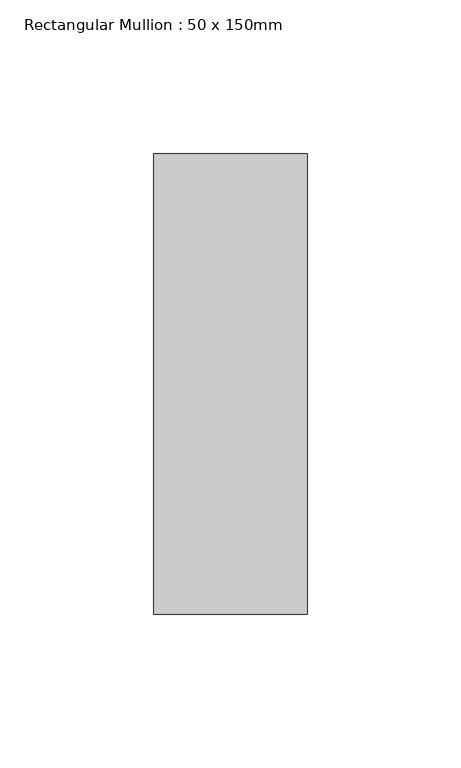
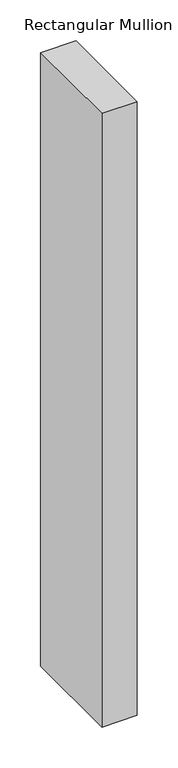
"""IFC4 building model written with IfcOpenShell, lengths in millimetres: member geometry, Rectangular Mullion : 50 x 150mm."""

from ifc_helpers import new_model, si_unit, frame, origin, place, context, project, spatial, polyline, outline, extrude, source, transform, mapped, element, save


def rectangular_mullion_50_x_150mm_fdea0e76(model_context):
    return source(origin(), model_context, "Body", "SweptSolid", [
        extrude(outline(polyline([(25.0, 75.0), (25.0, -75.0), (-25.0, -75.0), (-25.0, 75.0), (25.0, 75.0)])), frame((0.0, 0.0, -918.3333334), z_axis=(0.0, 0.0, 1.0), x_axis=(1.0, 0.0, 0.0)), (0.0, 0.0, 1.0), 918.3333334),
    ])


if __name__ == "__main__":
    model = new_model("IFC4")
    model_context = context("Model", 3, world=origin())
    ifc_project = project(units=[si_unit("LENGTHUNIT", "METRE", prefix="MILLI")], contexts=[model_context])
    site = spatial("IfcSite", under=ifc_project)
    building = spatial("IfcBuilding", under=site)
    placement = place(None, origin())
    rectangular_mullion_50_x_150mm_shape = rectangular_mullion_50_x_150mm_fdea0e76(model_context)
    element("IfcMember", 1, ObjectType="Rectangular Mullion : 50 x 150mm", at=placement, inside=building, context=model_context, shape_type="MappedRepresentation", body=[
        mapped(rectangular_mullion_50_x_150mm_shape, transform((0.0, 0.0, 0.0), x_axis=(1.0, 0.0, 0.0), y_axis=(0.0, 1.0, 0.0), z_axis=(0.0, 0.0, 1.0))),
    ])
    save(model, "model.ifc")
